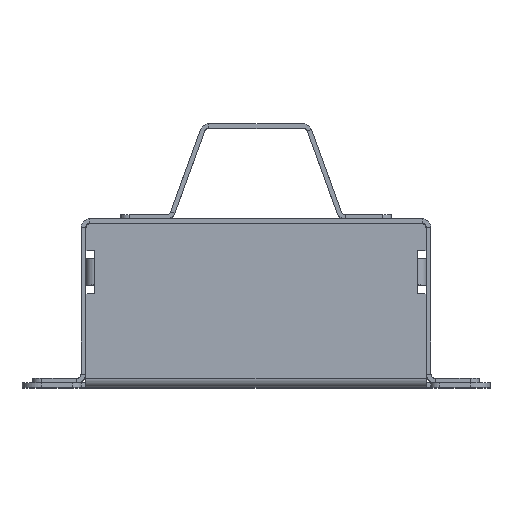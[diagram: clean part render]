
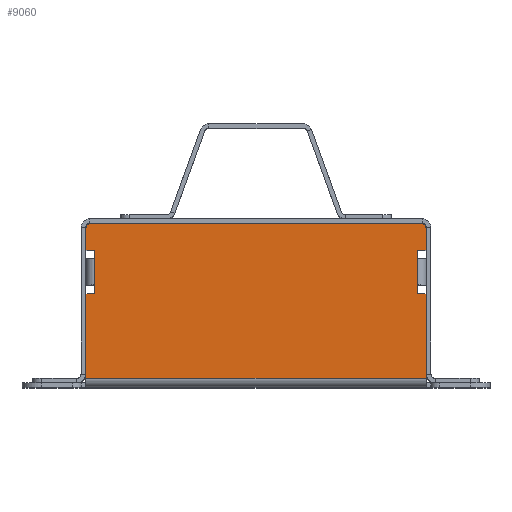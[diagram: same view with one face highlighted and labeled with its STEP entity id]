
A CAD part, top view. The second image highlights one B-rep face of the part: STEP entity #9060.
In plain terms, the highlighted planar face has unit normal (0, 0, 1).
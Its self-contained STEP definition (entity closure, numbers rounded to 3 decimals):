
#354=PLANE('',#9921);
#775=FACE_OUTER_BOUND('',#1374,.T.);
#1374=EDGE_LOOP('',(#7747,#7748,#7749,#7750,#7751,#7752,#7753,#7754,#7755,
#7756,#7757,#7758,#7759,#7760,#7761,#7762,#7763,#7764));
#2161=LINE('',#14744,#3042);
#2162=LINE('',#14746,#3043);
#2163=LINE('',#14748,#3044);
#2164=LINE('',#14750,#3045);
#2165=LINE('',#14752,#3046);
#2166=LINE('',#14756,#3047);
#2167=LINE('',#14760,#3048);
#2168=LINE('',#14762,#3049);
#2169=LINE('',#14764,#3050);
#2170=LINE('',#14766,#3051);
#2171=LINE('',#14768,#3052);
#2172=LINE('',#14770,#3053);
#2173=LINE('',#14772,#3054);
#2174=LINE('',#14774,#3055);
#2175=LINE('',#14776,#3056);
#2176=LINE('',#14777,#3057);
#3042=VECTOR('',#12094,10.);
#3043=VECTOR('',#12095,10.);
#3044=VECTOR('',#12096,10.);
#3045=VECTOR('',#12097,10.);
#3046=VECTOR('',#12098,10.);
#3047=VECTOR('',#12101,10.);
#3048=VECTOR('',#12104,10.);
#3049=VECTOR('',#12105,10.);
#3050=VECTOR('',#12106,10.);
#3051=VECTOR('',#12107,10.);
#3052=VECTOR('',#12108,10.);
#3053=VECTOR('',#12109,10.);
#3054=VECTOR('',#12110,10.);
#3055=VECTOR('',#12111,10.);
#3056=VECTOR('',#12112,10.);
#3057=VECTOR('',#12113,10.);
#3646=CIRCLE('',#9922,2.);
#3647=CIRCLE('',#9923,2.);
#4352=VERTEX_POINT('',#14742);
#4353=VERTEX_POINT('',#14743);
#4354=VERTEX_POINT('',#14745);
#4355=VERTEX_POINT('',#14747);
#4356=VERTEX_POINT('',#14749);
#4357=VERTEX_POINT('',#14751);
#4358=VERTEX_POINT('',#14753);
#4359=VERTEX_POINT('',#14755);
#4360=VERTEX_POINT('',#14757);
#4361=VERTEX_POINT('',#14759);
#4362=VERTEX_POINT('',#14761);
#4363=VERTEX_POINT('',#14763);
#4364=VERTEX_POINT('',#14765);
#4365=VERTEX_POINT('',#14767);
#4366=VERTEX_POINT('',#14769);
#4367=VERTEX_POINT('',#14771);
#4368=VERTEX_POINT('',#14773);
#4369=VERTEX_POINT('',#14775);
#5517=EDGE_CURVE('',#4352,#4353,#2161,.T.);
#5518=EDGE_CURVE('',#4353,#4354,#2162,.T.);
#5519=EDGE_CURVE('',#4354,#4355,#2163,.T.);
#5520=EDGE_CURVE('',#4355,#4356,#2164,.T.);
#5521=EDGE_CURVE('',#4356,#4357,#2165,.F.);
#5522=EDGE_CURVE('',#4358,#4357,#3646,.T.);
#5523=EDGE_CURVE('',#4358,#4359,#2166,.F.);
#5524=EDGE_CURVE('',#4360,#4359,#3647,.T.);
#5525=EDGE_CURVE('',#4360,#4361,#2167,.F.);
#5526=EDGE_CURVE('',#4361,#4362,#2168,.T.);
#5527=EDGE_CURVE('',#4362,#4363,#2169,.T.);
#5528=EDGE_CURVE('',#4363,#4364,#2170,.T.);
#5529=EDGE_CURVE('',#4364,#4365,#2171,.T.);
#5530=EDGE_CURVE('',#4365,#4366,#2172,.T.);
#5531=EDGE_CURVE('',#4366,#4367,#2173,.F.);
#5532=EDGE_CURVE('',#4367,#4368,#2174,.T.);
#5533=EDGE_CURVE('',#4368,#4369,#2175,.F.);
#5534=EDGE_CURVE('',#4369,#4352,#2176,.T.);
#7747=ORIENTED_EDGE('',*,*,#5517,.T.);
#7748=ORIENTED_EDGE('',*,*,#5518,.T.);
#7749=ORIENTED_EDGE('',*,*,#5519,.T.);
#7750=ORIENTED_EDGE('',*,*,#5520,.T.);
#7751=ORIENTED_EDGE('',*,*,#5521,.T.);
#7752=ORIENTED_EDGE('',*,*,#5522,.F.);
#7753=ORIENTED_EDGE('',*,*,#5523,.T.);
#7754=ORIENTED_EDGE('',*,*,#5524,.F.);
#7755=ORIENTED_EDGE('',*,*,#5525,.T.);
#7756=ORIENTED_EDGE('',*,*,#5526,.T.);
#7757=ORIENTED_EDGE('',*,*,#5527,.T.);
#7758=ORIENTED_EDGE('',*,*,#5528,.T.);
#7759=ORIENTED_EDGE('',*,*,#5529,.T.);
#7760=ORIENTED_EDGE('',*,*,#5530,.T.);
#7761=ORIENTED_EDGE('',*,*,#5531,.T.);
#7762=ORIENTED_EDGE('',*,*,#5532,.T.);
#7763=ORIENTED_EDGE('',*,*,#5533,.T.);
#7764=ORIENTED_EDGE('',*,*,#5534,.T.);
#9060=ADVANCED_FACE('',(#775),#354,.T.);
#9921=AXIS2_PLACEMENT_3D('',#14741,#12092,#12093);
#9922=AXIS2_PLACEMENT_3D('',#14754,#12099,#12100);
#9923=AXIS2_PLACEMENT_3D('',#14758,#12102,#12103);
#12092=DIRECTION('center_axis',(0.,0.,
1.));
#12093=DIRECTION('ref_axis',(0.,1.,0.));
#12094=DIRECTION('',(0.,1.,0.));
#12095=DIRECTION('',(0.,1.,0.));
#12096=DIRECTION('',(0.,1.,0.));
#12097=DIRECTION('',(1.,0.,0.));
#12098=DIRECTION('',(0.,-1.,0.));
#12099=DIRECTION('center_axis',(0.,0.,
-1.));
#12100=DIRECTION('ref_axis',(0.707,0.707,0.));
#12101=DIRECTION('',(1.,0.,0.));
#12102=DIRECTION('center_axis',(0.,0.,
-1.));
#12103=DIRECTION('ref_axis',(-0.707,0.707,0.));
#12104=DIRECTION('',(0.,1.,0.));
#12105=DIRECTION('',(1.,0.,0.));
#12106=DIRECTION('',(0.,-1.,0.));
#12107=DIRECTION('',(0.,-1.,0.));
#12108=DIRECTION('',(0.,-1.,0.));
#12109=DIRECTION('',(-1.,0.,0.));
#12110=DIRECTION('',(0.,1.,0.));
#12111=DIRECTION('',(1.,0.,0.));
#12112=DIRECTION('',(0.,-1.,0.));
#12113=DIRECTION('',(-1.,0.,0.));
#14741=CARTESIAN_POINT('Origin',(76.529,28.003,258.787));
#14742=CARTESIAN_POINT('',(150.279,33.515,258.787));
#14743=CARTESIAN_POINT('',(150.279,37.515,258.787));
#14744=CARTESIAN_POINT('',(150.279,32.759,258.787));
#14745=CARTESIAN_POINT('',(150.279,49.515,258.787));
#14746=CARTESIAN_POINT('',(150.279,32.759,258.787));
#14747=CARTESIAN_POINT('',(150.279,53.515,258.787));
#14748=CARTESIAN_POINT('',(150.279,32.759,258.787));
#14749=CARTESIAN_POINT('',(154.279,53.515,258.787));
#14750=CARTESIAN_POINT('',(115.404,53.515,258.787));
#14751=CARTESIAN_POINT('',(154.279,63.515,258.787));
#14752=CARTESIAN_POINT('',(154.279,9.122,258.787));
#14753=CARTESIAN_POINT('',(152.279,65.515,258.787));
#14754=CARTESIAN_POINT('Origin',(152.279,63.515,258.787));
#14755=CARTESIAN_POINT('',(0.779,65.515,258.787));
#14756=CARTESIAN_POINT('',(115.529,65.515,258.787));
#14757=CARTESIAN_POINT('',(-1.221,63.515,258.787));
#14758=CARTESIAN_POINT('Origin',(0.779,63.515,258.787));
#14759=CARTESIAN_POINT('',(-1.221,53.515,258.787));
#14760=CARTESIAN_POINT('',(-1.221,46.884,258.787));
#14761=CARTESIAN_POINT('',(2.779,53.515,258.787));
#14762=CARTESIAN_POINT('',(39.654,53.515,258.787));
#14763=CARTESIAN_POINT('',(2.779,49.515,258.787));
#14764=CARTESIAN_POINT('',(2.779,38.759,258.787));
#14765=CARTESIAN_POINT('',(2.779,37.515,258.787));
#14766=CARTESIAN_POINT('',(2.779,38.759,258.787));
#14767=CARTESIAN_POINT('',(2.779,33.515,258.787));
#14768=CARTESIAN_POINT('',(2.779,38.759,258.787));
#14769=CARTESIAN_POINT('',(-1.221,33.515,258.787));
#14770=CARTESIAN_POINT('',(37.654,33.515,258.787));
#14771=CARTESIAN_POINT('',(-1.221,-5.235,258.787));
#14772=CARTESIAN_POINT('',(-1.221,46.884,258.787));
#14773=CARTESIAN_POINT('',(154.279,-5.235,258.787));
#14774=CARTESIAN_POINT('',(76.529,-5.235,258.787));
#14775=CARTESIAN_POINT('',(154.279,33.515,258.787));
#14776=CARTESIAN_POINT('',(154.279,9.122,258.787));
#14777=CARTESIAN_POINT('',(113.404,33.515,258.787));
